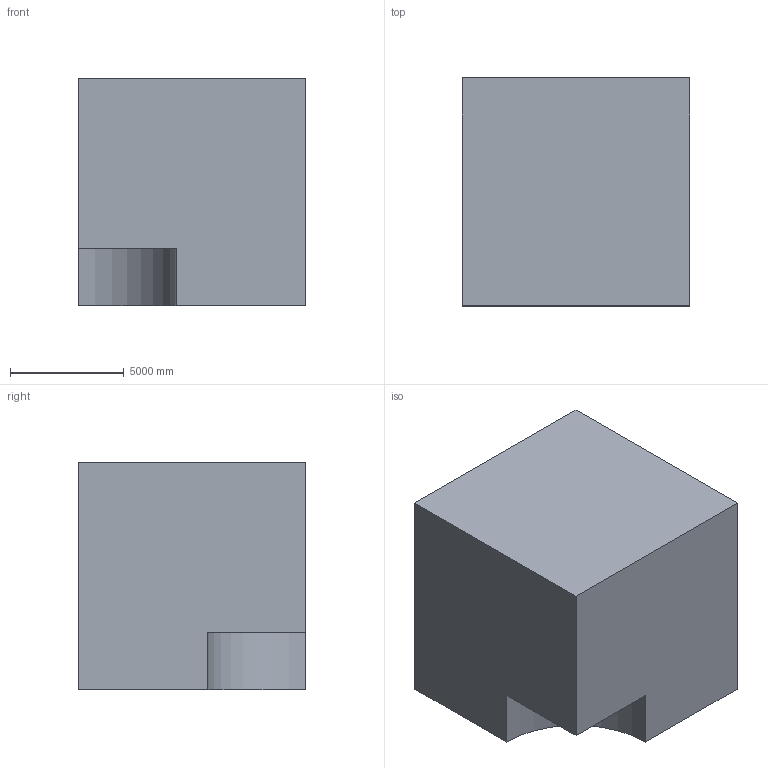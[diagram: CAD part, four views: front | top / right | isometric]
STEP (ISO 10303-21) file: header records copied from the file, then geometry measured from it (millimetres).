
FILE_DESCRIPTION (( 'STEP AP203' ), '1' );
FILE_NAME ('63.STEP', '2022-08-31T11:21:27', ( 'user' ), ( '' ), 'SwSTEP 2.0', 'SolidWorks 2021', '' );
FILE_SCHEMA (( 'CONFIG_CONTROL_DESIGN' ));
Length unit declared in the file: centimetre
Products named in the file (1): 63
Bounding box: 10000 x 10000 x 10000 mm (x, y, z)
Volume: 906386100744.3 mm3; surface area: 670494325.5 mm2
Topology: 1 solids, 1 shells, 19 faces, 42 edges, 28 vertices
Faces by surface type: plane 12, cylinder 7
Entity records: 607 total; most frequent: DIRECTION 96, CARTESIAN_POINT 90, ORIENTED_EDGE 84, EDGE_CURVE 42, AXIS2_PLACEMENT_3D 34, VERTEX_POINT 28, LINE 28, VECTOR 28
